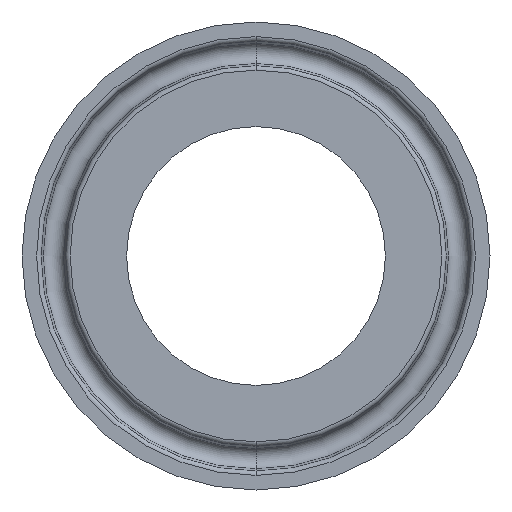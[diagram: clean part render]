
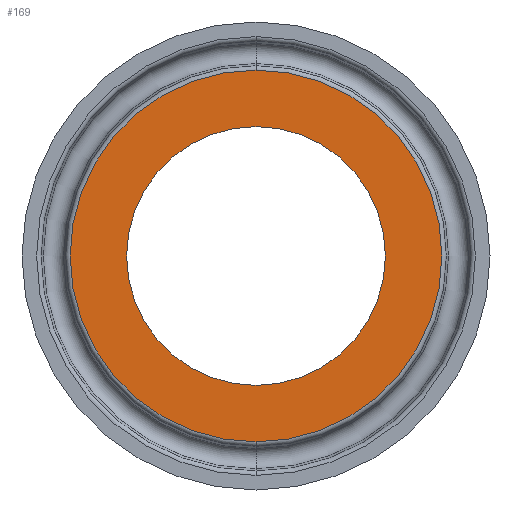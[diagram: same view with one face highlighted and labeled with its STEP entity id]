
A CAD part, front view. The second image highlights one B-rep face of the part: STEP entity #169.
In plain terms, the highlighted planar face has unit normal (0, -1, 0).
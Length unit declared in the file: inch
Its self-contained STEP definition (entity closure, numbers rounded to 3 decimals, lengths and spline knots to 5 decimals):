
#10 = DIRECTION ( 'NONE',  ( 0., 0., 1. ) ) ;
#45 = EDGE_LOOP ( 'NONE', ( #387, #267 ) ) ;
#57 = EDGE_CURVE ( 'NONE', #299, #396, #549, .T. ) ;
#60 = FACE_BOUND ( 'NONE', #45, .T. ) ;
#72 = AXIS2_PLACEMENT_3D ( 'NONE', #215, #515, #430 ) ;
#73 = ORIENTED_EDGE ( 'NONE', *, *, #234, .F. ) ;
#143 = AXIS2_PLACEMENT_3D ( 'NONE', #186, #239, #453 ) ;
#169 = ADVANCED_FACE ( 'NONE', ( #481, #60 ), #309, .F. ) ;
#186 = CARTESIAN_POINT ( 'NONE',  ( 0., 0., 0. ) ) ;
#190 = DIRECTION ( 'NONE',  ( 0., 0., 1. ) ) ;
#210 = EDGE_LOOP ( 'NONE', ( #73, #467 ) ) ;
#215 = CARTESIAN_POINT ( 'NONE',  ( 0., 0., 0. ) ) ;
#234 = EDGE_CURVE ( 'NONE', #354, #432, #305, .T. ) ;
#237 = DIRECTION ( 'NONE',  ( 0., 1., 0. ) ) ;
#239 = DIRECTION ( 'NONE',  ( 0., 1., 0. ) ) ;
#264 = CIRCLE ( 'NONE', #587, 0.5485 ) ;
#267 = ORIENTED_EDGE ( 'NONE', *, *, #368, .T. ) ;
#280 = CARTESIAN_POINT ( 'NONE',  ( 0., 0., 0. ) ) ;
#299 = VERTEX_POINT ( 'NONE', #381 ) ;
#305 = CIRCLE ( 'NONE', #512, 0.78791 ) ;
#309 = PLANE ( 'NONE',  #72 ) ;
#354 = VERTEX_POINT ( 'NONE', #446 ) ;
#368 = EDGE_CURVE ( 'NONE', #396, #299, #264, .T. ) ;
#377 = CARTESIAN_POINT ( 'NONE',  ( 0., 0., 0. ) ) ;
#381 = CARTESIAN_POINT ( 'NONE',  ( 0., 0., 0.5485 ) ) ;
#387 = ORIENTED_EDGE ( 'NONE', *, *, #57, .T. ) ;
#389 = CIRCLE ( 'NONE', #559, 0.78791 ) ;
#396 = VERTEX_POINT ( 'NONE', #404 ) ;
#398 = EDGE_CURVE ( 'NONE', #432, #354, #389, .T. ) ;
#404 = CARTESIAN_POINT ( 'NONE',  ( 0., 0., -0.5485 ) ) ;
#430 = DIRECTION ( 'NONE',  ( 0., 0., 1. ) ) ;
#432 = VERTEX_POINT ( 'NONE', #450 ) ;
#442 = CARTESIAN_POINT ( 'NONE',  ( 0., 0., 0. ) ) ;
#446 = CARTESIAN_POINT ( 'NONE',  ( 0., 0., 0.78791 ) ) ;
#450 = CARTESIAN_POINT ( 'NONE',  ( 0., 0., -0.78791 ) ) ;
#453 = DIRECTION ( 'NONE',  ( 0., 0., 1. ) ) ;
#455 = DIRECTION ( 'NONE',  ( 0., 1., 0. ) ) ;
#467 = ORIENTED_EDGE ( 'NONE', *, *, #398, .F. ) ;
#474 = DIRECTION ( 'NONE',  ( 0., 1., 0. ) ) ;
#481 = FACE_OUTER_BOUND ( 'NONE', #210, .T. ) ;
#512 = AXIS2_PLACEMENT_3D ( 'NONE', #377, #474, #10 ) ;
#515 = DIRECTION ( 'NONE',  ( 0., 1., 0. ) ) ;
#536 = DIRECTION ( 'NONE',  ( 0., 0., 1. ) ) ;
#549 = CIRCLE ( 'NONE', #143, 0.5485 ) ;
#559 = AXIS2_PLACEMENT_3D ( 'NONE', #442, #237, #190 ) ;
#587 = AXIS2_PLACEMENT_3D ( 'NONE', #280, #455, #536 ) ;
